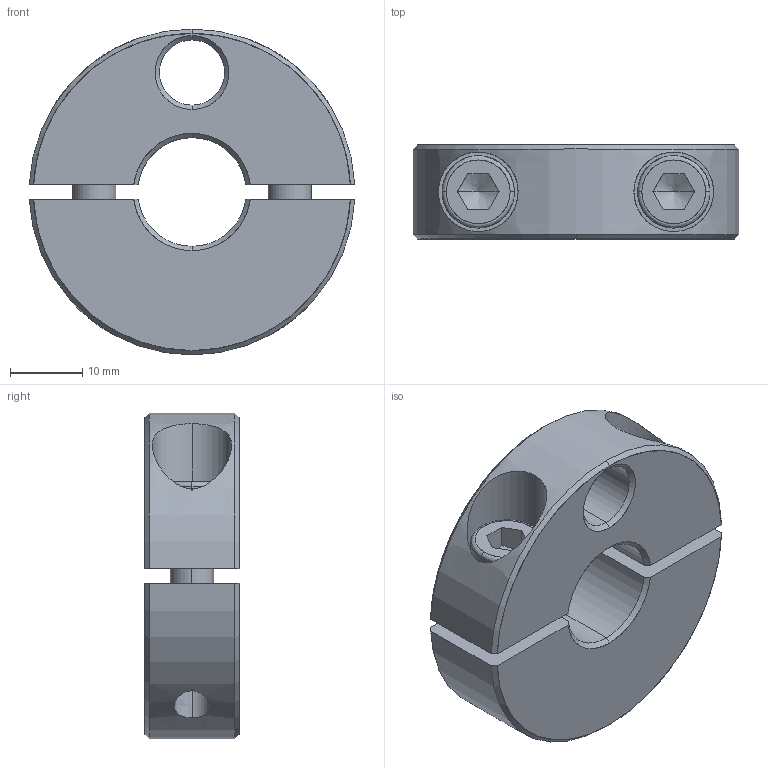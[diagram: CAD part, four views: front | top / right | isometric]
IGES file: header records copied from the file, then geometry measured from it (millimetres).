
Start section: SolidWorks IGES FILE using analytic representation for surfaces
Global section: file name: C:\WIX2\Positioning\3865\3865W115.igs; native system: SolidWorks 2003 by SolidWorks Corporation; preprocessor: Version 5.3; author: Joan; date: 030722.172952; units: millimetre
Bounding box: 44.96 x 13 x 45 mm (x, y, z)
Surface area: 8687.7 mm2 (no closed solid volume)
Topology: 0 solids, 0 shells, 99 faces, 1619 edges, 1615 vertices
Faces by surface type: revolution 65, bspline 34
